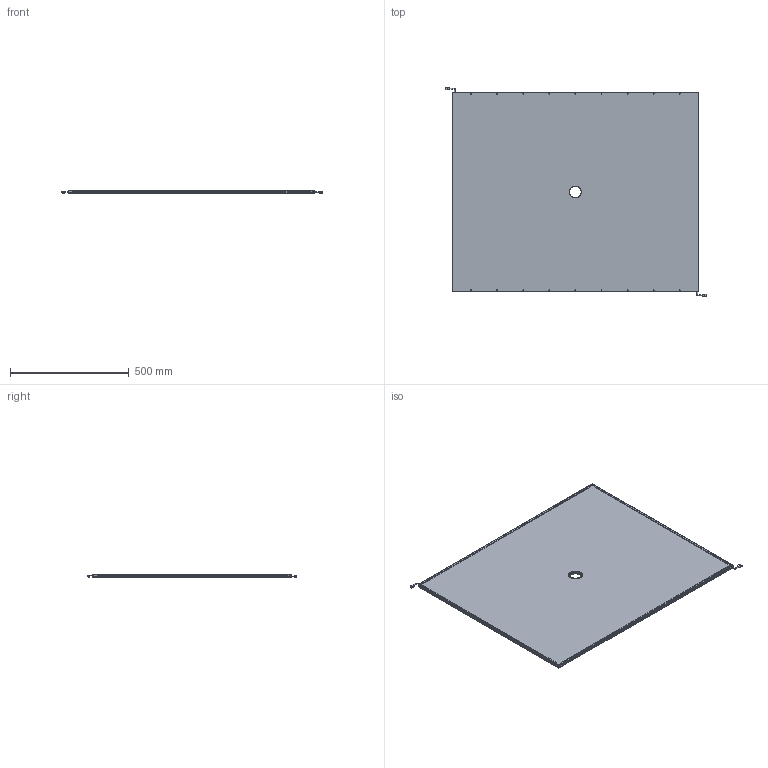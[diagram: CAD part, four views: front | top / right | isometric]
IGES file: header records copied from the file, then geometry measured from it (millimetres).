
Start section: SolidWorks IGES file using analytic representation for surfaces
Global section: file name: D:\SynologyDrive\新款图纸\非标定制\侧部开孔背光\FLC1000800-40\CNC\FLC1000800-50.IGS,15HSolidWorks; native system: 2022; preprocessor: SolidWorks 2022; author: Administrator; date: 220701.095323; units: millimetre
Bounding box: 1098.81 x 880 x 15.4 mm (x, y, z)
Surface area: 5403293 mm2 (no closed solid volume)
Topology: 0 solids, 0 shells, 1015 faces, 13650 edges, 13634 vertices
Faces by surface type: bspline 515, revolution 500
